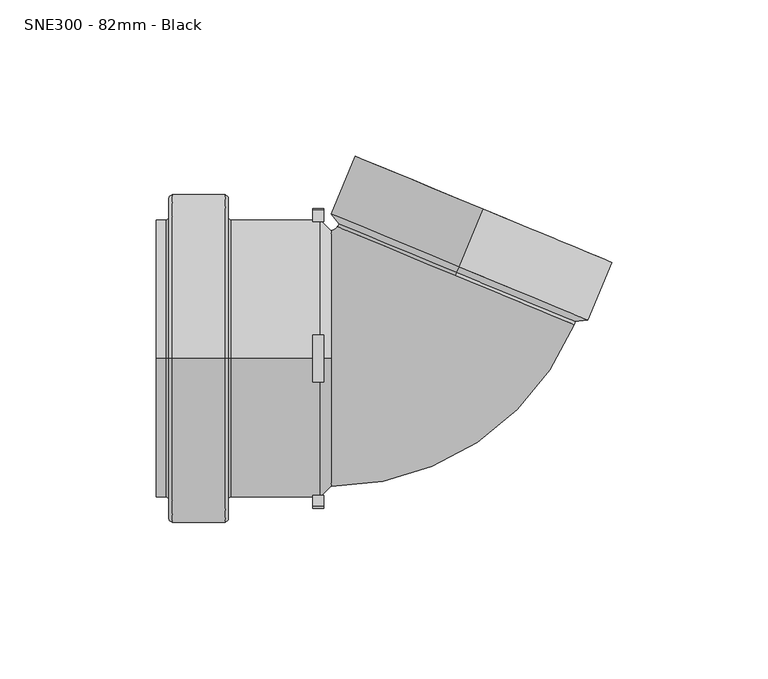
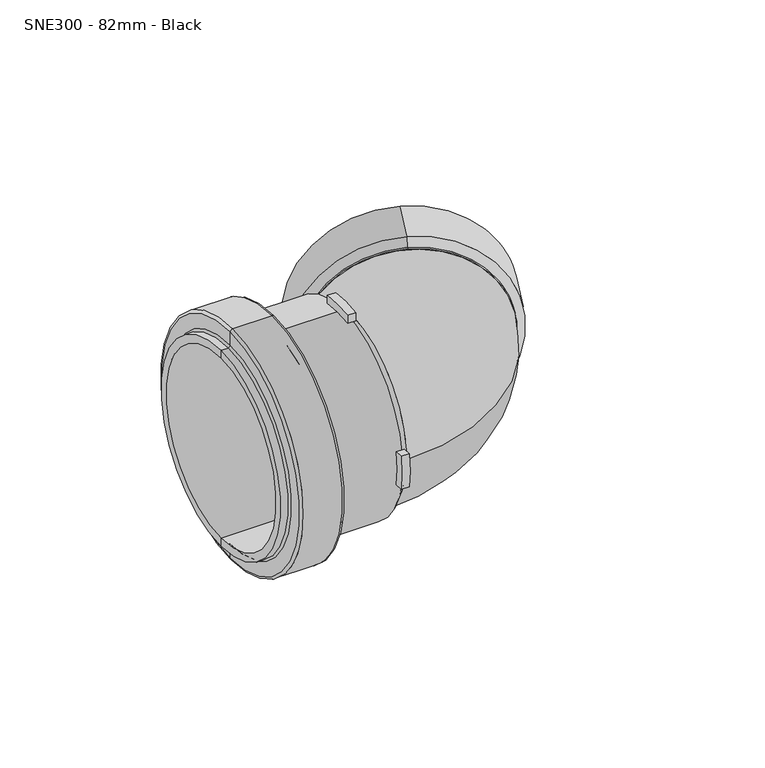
"""IFC4 building model written with IfcOpenShell, lengths in millimetres: pipe fitting geometry, MarleyPlumbingAndDrainage_PipeFitting_OffsetBend67-5 : SNE300 - 82mm - Black."""

from ifc_helpers import new_model, si_unit, point, frame, origin, origin_2d, place, context, project, spatial, polyline, circle_curve, ellipse_curve, trimmed, segment, composite_curve, outline, extrude, source, transform, mapped, element, save
from ifc_brep_helpers import plane_surface, cylinder_surface, revolved_surface, advanced_brep


def sne300_82mm_black_0a9ef5f2(model_context):
    return source(origin(), model_context, "Body", "SolidModel", [
        advanced_brep(
        [(10.5764007, 29.316251, -41.0), (10.5764007, 29.316251, 41.0), (18.2300693, 47.7938417, 41.0), (18.2300693, 47.7938417, -41.0), (10.5764007, 29.316251, 0.0), (9.4283504, 26.5446124, -41.0), (9.4283504, 26.5446124, 41.0), (9.4283504, 26.5446124, 0.0), (9.8110338, 27.4684919, -41.0), (9.8110338, 27.4684919, 41.0), (10.5764007, 29.316251, -44.5), (10.5764007, 29.316251, 44.5), (18.2300693, 47.7938417, -44.5), (18.2300693, 47.7938417, 44.5)],
        [
            (0, 1, circle_curve(frame((10.5764007, 29.316251, 0.0), z_axis=(-0.3826834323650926, -0.9238795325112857, 0.0), x_axis=(0.0, 0.0, 1.0000000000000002)), 41.0)),
            (1, 2),
            (2, 3, circle_curve(frame((18.2300693, 47.7938417, 0.0), z_axis=(0.3826834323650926, 0.9238795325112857, 0.0), x_axis=(0.0, 0.0, 1.0000000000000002)), 41.0)),
            (3, 0),
            (1, 0, circle_curve(frame((10.5764007, 29.316251, 0.0), z_axis=(-0.3826834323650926, -0.9238795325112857, 0.0), x_axis=(0.0, 0.0, 1.0000000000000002)), 41.0)),
            (3, 2, circle_curve(frame((18.2300693, 47.7938417, 0.0), z_axis=(0.3826834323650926, 0.9238795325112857, 0.0), x_axis=(0.0, 0.0, 1.0000000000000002)), 41.0)),
            (4, 1),
            (0, 4),
            (5, 6, circle_curve(frame((9.4283504, 26.5446124, 0.0), z_axis=(-0.3826834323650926, -0.9238795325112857, 0.0), x_axis=(0.0, 0.0, 1.0000000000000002)), 41.0)),
            (6, 7),
            (7, 5),
            (6, 5, circle_curve(frame((9.4283504, 26.5446124, 0.0), z_axis=(-0.3826834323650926, -0.9238795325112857, 0.0), x_axis=(0.0, 0.0, 1.0000000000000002)), 41.0)),
            (8, 9, circle_curve(frame((9.8110338, 27.4684919, 0.0), z_axis=(-0.3826834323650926, -0.9238795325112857, 0.0), x_axis=(0.0, 0.0, 1.0000000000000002)), 41.0)),
            (9, 6),
            (5, 8),
            (9, 8, circle_curve(frame((9.8110338, 27.4684919, 0.0), z_axis=(-0.3826834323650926, -0.9238795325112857, 0.0), x_axis=(0.0, 0.0, 1.0000000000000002)), 41.0)),
            (10, 11, circle_curve(frame((10.5764007, 29.316251, 0.0), z_axis=(-0.3826834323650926, -0.9238795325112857, 0.0), x_axis=(0.0, 0.0, 1.0000000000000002)), 44.5)),
            (11, 9),
            (8, 10),
            (11, 10, circle_curve(frame((10.5764007, 29.316251, 0.0), z_axis=(-0.3826834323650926, -0.9238795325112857, 0.0), x_axis=(0.0, 0.0, 1.0000000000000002)), 44.5)),
            (12, 13, circle_curve(frame((18.2300693, 47.7938417, 0.0), z_axis=(-0.3826834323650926, -0.9238795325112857, 0.0), x_axis=(0.0, 0.0, 1.0000000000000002)), 44.5)),
            (13, 11),
            (10, 12),
            (13, 12, circle_curve(frame((18.2300693, 47.7938417, 0.0), z_axis=(-0.3826834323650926, -0.9238795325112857, 0.0), x_axis=(0.0, 0.0, 1.0000000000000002)), 44.5)),
            (2, 13),
            (12, 3),
        ],
        [
            revolved_surface(polyline([(18.230069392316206, 47.79384166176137, 41.00000000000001), (10.576400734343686, 29.31625098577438, 41.00000000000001)]), (7.0701676, 20.8514554, 0.0), (0.3826834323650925, 0.9238795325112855, 0.0)),
            plane_surface(frame((10.5764007, 29.316251, 0.0), z_axis=(0.38268343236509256, 0.9238795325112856, 0.0), x_axis=(0.0, 0.0, 1.0))),
            plane_surface(frame((9.4283504, 26.5446124, 0.0), z_axis=(-0.38268343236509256, -0.9238795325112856, 0.0), x_axis=(0.0, 0.0, 1.0))),
            cylinder_surface(frame((7.0701676, 20.8514554, 0.0), z_axis=(0.3826834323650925, 0.9238795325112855, 0.0), x_axis=(0.0, 0.0, 1.0000000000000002)), 41.0),
            revolved_surface(polyline([(9.8110338, 27.4684919, 41.0), (10.5764007, 29.316251, 44.5)]), (7.0701676, 20.8514554, 0.0), (0.3826834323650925, 0.9238795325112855, 0.0)),
            cylinder_surface(frame((7.0701676, 20.8514554, 0.0), z_axis=(0.3826834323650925, 0.9238795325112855, 0.0), x_axis=(0.0, 0.0, 1.0000000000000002)), 44.5),
            plane_surface(frame((18.2300693, 47.7938417, 0.0), z_axis=(0.38268343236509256, 0.9238795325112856, 0.0), x_axis=(0.0, 0.0, 1.0))),
        ],
        [
            (0, [[1, 2, 3, 4]]),
            (0, [[5, -4, 6, -2]]),
            (1, [[7, -1, 8]]),
            (1, [[-8, -5, -7]]),
            (2, [[9, 10, 11]]),
            (2, [[12, -11, -10]]),
            (3, [[13, 14, -9, 15]]),
            (3, [[16, -15, -12, -14]]),
            (4, [[17, 18, -13, 19]]),
            (4, [[20, -19, -16, -18]]),
            (5, [[21, 22, -17, 23]]),
            (5, [[24, -23, -20, -22]]),
            (6, [[-3, 25, -21, 26]]),
            (6, [[-6, -26, -24, -25]]),
        ],
    ),
        extrude(outline(composite_curve([segment(trimmed(circle_curve(origin_2d(), 44.5), [point((-7.5, -43.8634244))], [point((7.5, -43.8634244))], True, "CARTESIAN"), True, "CONTINUOUS"), segment(polyline([(7.5, -43.8634244), (7.5, -47.4104419)]), True, "CONTINUOUS"), segment(trimmed(circle_curve(origin_2d(), 48.0), [point((7.5, -47.4104419))], [point((-7.5, -47.4104419))], False, "CARTESIAN"), True, "CONTINUOUS"), segment(polyline([(-7.5, -47.4104419), (-7.5, -43.8634244)]), True, "CONTINUOUS")], self_intersect=False)), frame((-36.2984695, 0.0, 0.0), z_axis=(1.0, 0.0, 0.0), x_axis=(0.0, 1.0, 0.0)), (0.0, 0.0, 1.0), 3.5),
        extrude(outline(composite_curve([segment(trimmed(circle_curve(origin_2d(), 44.5), [point((7.5, 43.8634244))], [point((-7.5, 43.8634244))], True, "CARTESIAN"), True, "CONTINUOUS"), segment(polyline([(-7.5, 43.8634244), (-7.5, 47.4104419)]), True, "CONTINUOUS"), segment(trimmed(circle_curve(origin_2d(), 48.0), [point((-7.5, 47.4104419))], [point((7.5, 47.4104419))], False, "CARTESIAN"), True, "CONTINUOUS"), segment(polyline([(7.5, 47.4104419), (7.5, 43.8634244)]), True, "CONTINUOUS")], self_intersect=False)), frame((-36.2984695, 0.0, 0.0), z_axis=(1.0, 0.0, 0.0), x_axis=(0.0, 1.0, 0.0)), (0.0, 0.0, 1.0), 3.5),
        extrude(outline(composite_curve([segment(trimmed(circle_curve(origin_2d(), 44.5), [point((-43.8634244, 7.5))], [point((-43.8634244, -7.5))], True, "CARTESIAN"), True, "CONTINUOUS"), segment(polyline([(-43.8634244, -7.5), (-47.4104419, -7.5)]), True, "CONTINUOUS"), segment(trimmed(circle_curve(origin_2d(), 48.0), [point((-47.4104419, -7.5))], [point((-47.4104419, 7.5))], False, "CARTESIAN"), True, "CONTINUOUS"), segment(polyline([(-47.4104419, 7.5), (-43.8634244, 7.5)]), True, "CONTINUOUS")], self_intersect=False)), frame((-36.2984695, 0.0, 0.0), z_axis=(1.0, 0.0, 0.0), x_axis=(0.0, 1.0, 0.0)), (0.0, 0.0, 1.0), 3.5),
        extrude(outline(composite_curve([segment(trimmed(circle_curve(origin_2d(), 44.5), [point((43.8634244, -7.5))], [point((43.8634244, 7.5))], True, "CARTESIAN"), True, "CONTINUOUS"), segment(polyline([(43.8634244, 7.5), (47.4104419, 7.5)]), True, "CONTINUOUS"), segment(trimmed(circle_curve(origin_2d(), 48.0), [point((47.4104419, 7.5))], [point((47.4104419, -7.5))], False, "CARTESIAN"), True, "CONTINUOUS"), segment(polyline([(47.4104419, -7.5), (43.8634244, -7.5)]), True, "CONTINUOUS")], self_intersect=False)), frame((-36.2984695, 0.0, 0.0), z_axis=(1.0, 0.0, 0.0), x_axis=(0.0, 1.0, 0.0)), (0.0, 0.0, 1.0), 3.5),
        advanced_brep(
        [(-86.2984695, 0.0, 44.5), (-86.2984695, 0.0, -44.5), (-83.3049666, 0.0, -44.5), (-83.3049666, 0.0, 44.5), (-86.2984695, 0.0, 41.0), (-86.2984695, 0.0, -41.0), (-33.7984695, 0.0, 41.0), (-33.7984695, 0.0, -41.0), (-33.7984695, 0.0, 0.0), (-33.7984695, 0.0, 44.5), (-33.7984695, 0.0, -44.5), (-30.2984695, 0.0, -41.0), (-30.2984695, 0.0, 41.0), (-62.3242179, 0.0, 44.5), (-62.3242179, 0.0, -44.5), (-63.2984695, 0.0, 45.4742516), (-63.2984695, 0.0, -45.4742516), (-63.2984695, 0.0, 51.5187521), (-63.2984695, 0.0, -51.5187521), (-64.2797174, 0.0, 52.5), (-64.2797174, 0.0, -52.5), (-81.2545382, 0.0, 52.5), (-81.2545382, 0.0, -52.5), (-82.2984695, 0.0, 51.4560687), (-82.2984695, 0.0, -51.4560687), (-82.2984695, 0.0, 45.5064971), (-82.2984695, 0.0, -45.5064971), (-30.2984695, 0.0, 0.0)],
        [
            (0, 1, circle_curve(frame((-86.2984695, 0.0, 0.0), z_axis=(1.0, 0.0, 0.0), x_axis=(0.0, 0.0, -1.0)), 44.5)),
            (1, 2),
            (2, 3, circle_curve(frame((-83.3049666, 0.0, 0.0), z_axis=(-1.0, 0.0, 0.0), x_axis=(0.0, 0.0, -1.0)), 44.5)),
            (3, 0),
            (1, 0, circle_curve(frame((-86.2984695, 0.0, 0.0), z_axis=(1.0, 0.0, 0.0), x_axis=(0.0, 0.0, -1.0)), 44.5)),
            (3, 2, circle_curve(frame((-83.3049666, 0.0, 0.0), z_axis=(-1.0, 0.0, 0.0), x_axis=(0.0, 0.0, -1.0)), 44.5)),
            (4, 5, circle_curve(frame((-86.2984695, 0.0, 0.0), z_axis=(1.0, 0.0, 0.0), x_axis=(0.0, 0.0, -1.0)), 41.0)),
            (5, 1),
            (0, 4),
            (5, 4, circle_curve(frame((-86.2984695, 0.0, 0.0), z_axis=(1.0, 0.0, 0.0), x_axis=(0.0, 0.0, -1.0)), 41.0)),
            (6, 7, circle_curve(frame((-33.7984695, 0.0, 0.0), z_axis=(1.0, 0.0, 0.0), x_axis=(0.0, 0.0, -1.0)), 41.0)),
            (7, 5),
            (4, 6),
            (7, 6, circle_curve(frame((-33.7984695, 0.0, 0.0), z_axis=(1.0, 0.0, 0.0), x_axis=(0.0, 0.0, -1.0)), 41.0)),
            (8, 7),
            (6, 8),
            (9, 10, circle_curve(frame((-33.7984695, 0.0, 0.0), z_axis=(1.0, 0.0, 0.0), x_axis=(0.0, 0.0, -1.0)), 44.5)),
            (10, 11),
            (11, 12, circle_curve(frame((-30.2984695, 0.0, 0.0), z_axis=(-1.0, 0.0, 0.0), x_axis=(0.0, 0.0, -1.0)), 41.0)),
            (12, 9),
            (10, 9, circle_curve(frame((-33.7984695, 0.0, 0.0), z_axis=(1.0, 0.0, 0.0), x_axis=(0.0, 0.0, -1.0)), 44.5)),
            (12, 11, circle_curve(frame((-30.2984695, 0.0, 0.0), z_axis=(-1.0, 0.0, 0.0), x_axis=(0.0, 0.0, -1.0)), 41.0)),
            (13, 14, circle_curve(frame((-62.3242179, 0.0, 0.0), z_axis=(1.0, 0.0, 0.0), x_axis=(0.0, 0.0, -1.0)), 44.5)),
            (14, 10),
            (9, 13),
            (14, 13, circle_curve(frame((-62.3242179, 0.0, 0.0), z_axis=(1.0, 0.0, 0.0), x_axis=(0.0, 0.0, -1.0)), 44.5)),
            (15, 16, circle_curve(frame((-63.2984695, 0.0, 0.0), z_axis=(1.0, 0.0, 0.0), x_axis=(0.0, 0.0, -1.0)), 45.4742516)),
            (16, 14, circle_curve(frame((-62.3242179, 0.0, -45.4742516), z_axis=(0.0, 1.0, 0.0), x_axis=(1.0, 0.0, 0.0)), 0.9742516)),
            (13, 15, circle_curve(frame((-62.3242179, 0.0, 45.4742516), z_axis=(0.0, 1.0, 0.0), x_axis=(1.0, 0.0, 0.0)), 0.9742516)),
            (16, 15, circle_curve(frame((-63.2984695, 0.0, 0.0), z_axis=(1.0, 0.0, 0.0), x_axis=(0.0, 0.0, -1.0)), 45.4742516)),
            (17, 18, circle_curve(frame((-63.2984695, 0.0, 0.0), z_axis=(1.0, 0.0, 0.0), x_axis=(0.0, 0.0, -1.0)), 51.5187521)),
            (18, 16),
            (15, 17),
            (18, 17, circle_curve(frame((-63.2984695, 0.0, 0.0), z_axis=(1.0, 0.0, 0.0), x_axis=(0.0, 0.0, -1.0)), 51.5187521)),
            (19, 20, circle_curve(frame((-64.2797174, 0.0, 0.0), z_axis=(1.0, 0.0, 0.0), x_axis=(0.0, 0.0, -1.0)), 52.5)),
            (20, 18, circle_curve(frame((-64.2797174, 0.0, -51.5187521), z_axis=(0.0, -1.0, 0.0), x_axis=(1.0, 0.0, 0.0)), 0.9812479)),
            (17, 19, circle_curve(frame((-64.2797174, 0.0, 51.5187521), z_axis=(0.0, -1.0, 0.0), x_axis=(1.0, 0.0, 0.0)), 0.9812479)),
            (20, 19, circle_curve(frame((-64.2797174, 0.0, 0.0), z_axis=(1.0, 0.0, 0.0), x_axis=(0.0, 0.0, -1.0)), 52.5)),
            (21, 22, circle_curve(frame((-81.2545382, 0.0, 0.0), z_axis=(1.0, 0.0, 0.0), x_axis=(0.0, 0.0, -1.0)), 52.5)),
            (22, 20),
            (19, 21),
            (22, 21, circle_curve(frame((-81.2545382, 0.0, 0.0), z_axis=(1.0, 0.0, 0.0), x_axis=(0.0, 0.0, -1.0)), 52.5)),
            (23, 24, circle_curve(frame((-82.2984695, 0.0, 0.0), z_axis=(1.0, 0.0, 0.0), x_axis=(0.0, 0.0, -1.0)), 51.4560687)),
            (24, 22, circle_curve(frame((-81.2545382, 0.0, -51.4560687), z_axis=(0.0, -1.0, 0.0), x_axis=(1.0, 0.0, 0.0)), 1.0439313)),
            (21, 23, circle_curve(frame((-81.2545382, 0.0, 51.4560687), z_axis=(0.0, -1.0, 0.0), x_axis=(1.0, 0.0, 0.0)), 1.0439313)),
            (24, 23, circle_curve(frame((-82.2984695, 0.0, 0.0), z_axis=(1.0, 0.0, 0.0), x_axis=(0.0, 0.0, -1.0)), 51.4560687)),
            (25, 26, circle_curve(frame((-82.2984695, 0.0, 0.0), z_axis=(1.0, 0.0, 0.0), x_axis=(0.0, 0.0, -1.0)), 45.5064971)),
            (26, 24),
            (23, 25),
            (26, 25, circle_curve(frame((-82.2984695, 0.0, 0.0), z_axis=(1.0, 0.0, 0.0), x_axis=(0.0, 0.0, -1.0)), 45.5064971)),
            (2, 26, circle_curve(frame((-83.3049666, 0.0, -45.5064971), z_axis=(0.0, 1.0, 0.0), x_axis=(1.0, 0.0, 0.0)), 1.0064971)),
            (25, 3, circle_curve(frame((-83.3049666, 0.0, 45.5064971), z_axis=(0.0, 1.0, 0.0), x_axis=(1.0, 0.0, 0.0)), 1.0064971)),
            (11, 27),
            (27, 12),
        ],
        [
            cylinder_surface(frame((-126.2984695, 0.0, 0.0), z_axis=(-1.0, 0.0, 0.0), x_axis=(0.0, 0.0, -1.0)), 44.5),
            plane_surface(frame((-86.2984695, 0.0, 0.0), z_axis=(-1.0, 0.0, 0.0), x_axis=(0.0, 0.0, -1.0))),
            revolved_surface(polyline([(-86.2984695, 0.0, -41.0), (-33.798469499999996, 0.0, -41.0)]), (-126.2984695, 0.0, 0.0), (-1.0, 0.0, 0.0)),
            plane_surface(frame((-33.7984695, 0.0, 0.0), z_axis=(-1.0, 0.0, 0.0), x_axis=(0.0, 0.0, -1.0))),
            revolved_surface(polyline([(-30.2984695, 0.0, -41.0), (-33.7984695, 0.0, -44.5)]), (-126.2984695, 0.0, 0.0), (-1.0, 0.0, 0.0)),
            revolved_surface(trimmed(ellipse_curve(frame((-62.3242179, 0.0, -45.4742516), z_axis=(0.0, -1.0, 0.0), x_axis=(1.0, 0.0, 0.0)), 0.9742516, 0.9742516), [point((-62.3242179, 0.0, -44.5))], [point((-63.2984695, 0.0, -45.4742516))], True, "CARTESIAN"), (-126.2984695, 0.0, 0.0), (-1.0, 0.0, 0.0)),
            plane_surface(frame((-63.2984695, 0.0, 0.0), z_axis=(1.0, 0.0, 0.0), x_axis=(0.0, 0.0, -1.0))),
            revolved_surface(trimmed(ellipse_curve(frame((-64.2797174, 0.0, -51.5187521), z_axis=(0.0, 1.0, 0.0), x_axis=(1.0, 0.0, 0.0)), 0.9812479, 0.9812479), [point((-63.2984695, 0.0, -51.5187521))], [point((-64.2797174, 0.0, -52.5))], True, "CARTESIAN"), (-126.2984695, 0.0, 0.0), (-1.0, 0.0, 0.0)),
            cylinder_surface(frame((-126.2984695, 0.0, 0.0), z_axis=(-1.0, 0.0, 0.0), x_axis=(0.0, 0.0, -1.0)), 52.5),
            revolved_surface(trimmed(ellipse_curve(frame((-81.2545382, 0.0, -51.4560687), z_axis=(0.0, 1.0, 0.0), x_axis=(1.0, 0.0, 0.0)), 1.0439313, 1.0439313), [point((-81.2545382, 0.0, -52.5))], [point((-82.2984695, 0.0, -51.4560687))], True, "CARTESIAN"), (-126.2984695, 0.0, 0.0), (-1.0, 0.0, 0.0)),
            plane_surface(frame((-82.2984695, 0.0, 0.0), z_axis=(-1.0, 0.0, 0.0), x_axis=(0.0, 0.0, -1.0))),
            revolved_surface(trimmed(ellipse_curve(frame((-83.3049666, 0.0, -45.5064971), z_axis=(0.0, -1.0, 0.0), x_axis=(1.0, 0.0, 0.0)), 1.0064971, 1.0064971), [point((-82.2984695, 0.0, -45.5064971))], [point((-83.3049666, 0.0, -44.5))], True, "CARTESIAN"), (-126.2984695, 0.0, 0.0), (-1.0, 0.0, 0.0)),
            plane_surface(frame((-30.2984695, 0.0, 0.0), z_axis=(1.0, 0.0, 0.0), x_axis=(0.0, 0.0, -1.0))),
        ],
        [
            (0, [[1, 2, 3, 4]]),
            (0, [[5, -4, 6, -2]]),
            (1, [[7, 8, -1, 9]]),
            (1, [[10, -9, -5, -8]]),
            (2, [[11, 12, -7, 13]]),
            (2, [[14, -13, -10, -12]]),
            (3, [[15, -11, 16]]),
            (3, [[-16, -14, -15]]),
            (4, [[17, 18, 19, 20]]),
            (4, [[21, -20, 22, -18]]),
            (0, [[23, 24, -17, 25]]),
            (0, [[26, -25, -21, -24]]),
            (5, [[27, 28, -23, 29]]),
            (5, [[30, -29, -26, -28]]),
            (6, [[31, 32, -27, 33]]),
            (6, [[34, -33, -30, -32]]),
            (7, [[35, 36, -31, 37]]),
            (7, [[38, -37, -34, -36]]),
            (8, [[39, 40, -35, 41]]),
            (8, [[42, -41, -38, -40]]),
            (9, [[43, 44, -39, 45]]),
            (9, [[46, -45, -42, -44]]),
            (10, [[47, 48, -43, 49]]),
            (10, [[50, -49, -46, -48]]),
            (11, [[-3, 51, -47, 52]]),
            (11, [[-6, -52, -50, -51]]),
            (12, [[-19, 53, 54]]),
            (12, [[-22, -54, -53]]),
        ],
    ),
        advanced_brep(
        [(-30.2984695, -41.0, 0.0), (-30.2984695, 41.0, 0.0), (47.3074112, 10.8545917, 0.0), (-28.4507104, 42.2346331, 0.0)],
        [
            (0, 1, circle_curve(frame((-30.2984695, 0.0, 0.0), z_axis=(-1.0, 0.0, 0.0), x_axis=(0.0, 1.0, 0.0)), 41.0)),
            (1, 0, circle_curve(frame((-30.2984695, 0.0, 0.0), z_axis=(-1.0, 0.0, 0.0), x_axis=(0.0, 1.0, 0.0)), 41.0)),
            (2, 3, circle_curve(frame((9.4283504, 26.5446124, 0.0), z_axis=(0.3826834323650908, 0.9238795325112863, 0.0), x_axis=(-0.9238795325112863, 0.3826834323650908, 0.0)), 41.0)),
            (3, 2, circle_curve(frame((9.4283504, 26.5446124, 0.0), z_axis=(0.3826834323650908, 0.9238795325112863, 0.0), x_axis=(-0.9238795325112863, 0.3826834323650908, 0.0)), 41.0)),
            (3, 1, circle_curve(frame((-30.2984695, 43.0, 0.0), z_axis=(0.0, 0.0, -1.0), x_axis=(0.0, -1.0, 0.0)), 2.0)),
            (0, 2, circle_curve(frame((-30.2984695, 43.0, 0.0), z_axis=(0.0, 0.0, 1.0), x_axis=(0.0, -1.0, 0.0)), 84.0)),
        ],
        [
            plane_surface(frame((-30.2984695, 0.0, 0.0), z_axis=(-1.0, 0.0, 0.0), x_axis=(0.0, 0.0, 1.0))),
            plane_surface(frame((9.4283504, 26.5446124, 0.0), z_axis=(0.3826834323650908, 0.9238795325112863, 0.0), x_axis=(0.0, 0.0, 1.0))),
            revolved_surface(trimmed(ellipse_curve(frame((-30.2984695, 0.0, 0.0), z_axis=(-1.0, 0.0, 0.0), x_axis=(0.0, 1.0, 0.0)), 41.0, 41.0), [point((-30.2984695, -41.0, 0.0))], [point((-30.2984695, 41.0, 0.0))], True, "CARTESIAN"), (-30.2984695, 43.0, 0.0), (0.0, 0.0, 1.0)),
            revolved_surface(trimmed(ellipse_curve(frame((-30.2984695, 0.0, 0.0), z_axis=(-1.0, 0.0, 0.0), x_axis=(0.0, 1.0, 0.0)), 41.0, 41.0), [point((-30.2984695, 41.0, 0.0))], [point((-30.2984695, -41.0, 0.0))], True, "CARTESIAN"), (-30.2984695, 43.0, 0.0), (0.0, 0.0, 1.0)),
        ],
        [
            (0, [[1, 2]]),
            (1, [[3, 4]]),
            (2, [[5, -1, 6, -4]]),
            (3, [[-6, -2, -5, -3]]),
        ],
    ),
    ])


if __name__ == "__main__":
    model = new_model("IFC4")
    model_context = context("Model", 3, world=origin())
    ifc_project = project(units=[si_unit("LENGTHUNIT", "METRE", prefix="MILLI")], contexts=[model_context])
    site = spatial("IfcSite", under=ifc_project)
    building = spatial("IfcBuilding", under=site)
    placement = place(None, origin())
    sne300_82mm_black_shape = sne300_82mm_black_0a9ef5f2(model_context)
    element("IfcPipeFitting", 1, ObjectType="MarleyPlumbingAndDrainage_PipeFitting_OffsetBend67-5 : SNE300 - 82mm - Black", at=placement, inside=building, context=model_context, shape_type="MappedRepresentation", body=[
        mapped(sne300_82mm_black_shape, transform((0.0, 0.0, 0.0), x_axis=(1.0, 0.0, 0.0), y_axis=(0.0, 1.0, 0.0), z_axis=(0.0, 0.0, 1.0))),
    ])
    save(model, "model.ifc")
